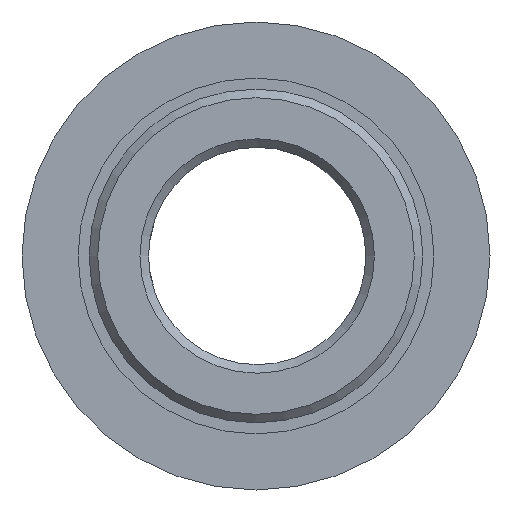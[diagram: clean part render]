
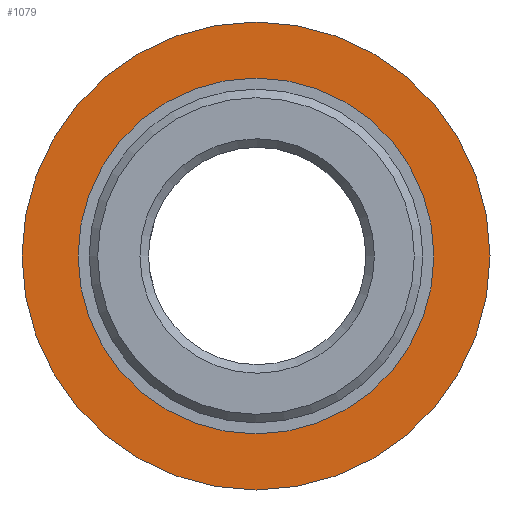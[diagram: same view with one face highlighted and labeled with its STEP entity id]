
A CAD part, left-side view. The second image highlights one B-rep face of the part: STEP entity #1079.
In plain terms, the highlighted planar face has unit normal (-1, 0, 0).
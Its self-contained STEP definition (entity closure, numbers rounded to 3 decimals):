
#43 = EDGE_LOOP ( 'NONE', ( #351 ) ) ;
#205 = CARTESIAN_POINT ( 'NONE',  ( -9.08, 0.138, -27.35 ) ) ;
#208 = CARTESIAN_POINT ( 'NONE',  ( -9.08, 0.138, -20.8 ) ) ;
#276 = AXIS2_PLACEMENT_3D ( 'NONE', #1247, #1248, #1249 ) ;
#278 = AXIS2_PLACEMENT_3D ( 'NONE', #1308, #1309, #1310 ) ;
#343 = ORIENTED_EDGE ( 'NONE', *, *, #880, .F. ) ;
#351 = ORIENTED_EDGE ( 'NONE', *, *, #883, .T. ) ;
#361 = AXIS2_PLACEMENT_3D ( 'NONE', #1455, #1459, #1460 ) ;
#644 = EDGE_LOOP ( 'NONE', ( #343 ) ) ;
#880 = EDGE_CURVE ( 'NONE', #1162, #1162, #991, .T. ) ;
#883 = EDGE_CURVE ( 'NONE', #1165, #1165, #989, .T. ) ;
#953 = FACE_OUTER_BOUND ( 'NONE', #644, .T. ) ;
#955 = FACE_BOUND ( 'NONE', #43, .T. ) ;
#989 = CIRCLE ( 'NONE', #278, 20.8 ) ;
#991 = CIRCLE ( 'NONE', #276, 27.35 ) ;
#1079 = ADVANCED_FACE ( 'NONE', ( #953, #955 ), #1457, .F. ) ;
#1162 = VERTEX_POINT ( 'NONE', #205 ) ;
#1165 = VERTEX_POINT ( 'NONE', #208 ) ;
#1247 = CARTESIAN_POINT ( 'NONE',  ( -9.08, 0.138, 0. ) ) ;
#1248 = DIRECTION ( 'NONE',  ( 1., 0., 0. ) ) ;
#1249 = DIRECTION ( 'NONE',  ( 0., 0., -1. ) ) ;
#1308 = CARTESIAN_POINT ( 'NONE',  ( -9.08, 0.138, 0. ) ) ;
#1309 = DIRECTION ( 'NONE',  ( 1., 0., 0. ) ) ;
#1310 = DIRECTION ( 'NONE',  ( 0., 0., -1. ) ) ;
#1455 = CARTESIAN_POINT ( 'NONE',  ( -9.08, 0.138, 0. ) ) ;
#1457 = PLANE ( 'NONE',  #361 ) ;
#1459 = DIRECTION ( 'NONE',  ( 1., 0., 0. ) ) ;
#1460 = DIRECTION ( 'NONE',  ( 0., 0., -1. ) ) ;
